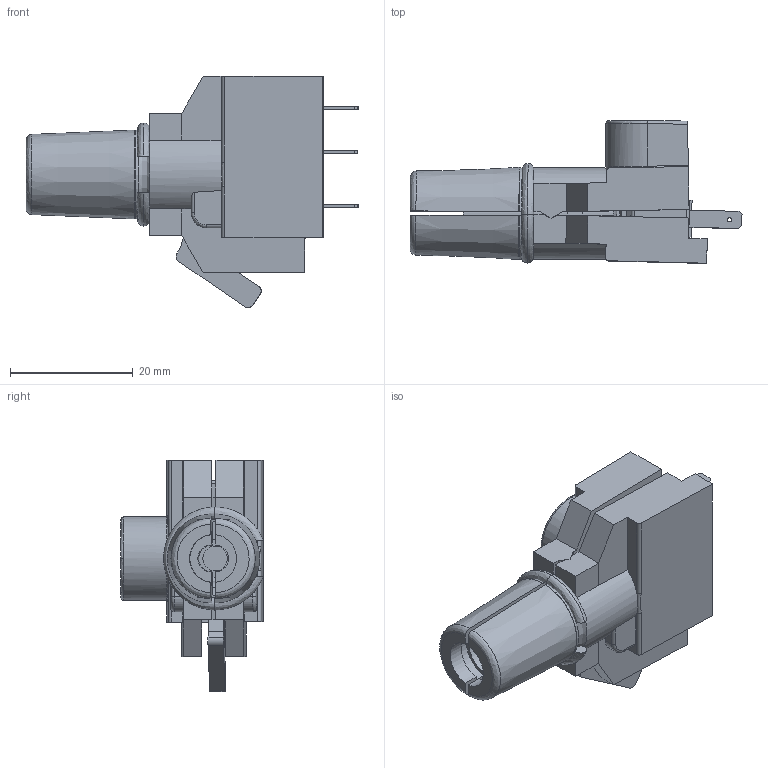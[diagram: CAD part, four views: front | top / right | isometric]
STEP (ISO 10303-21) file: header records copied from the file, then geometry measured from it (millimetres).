
FILE_DESCRIPTION (( 'STEP AP214' ), '1' );
FILE_NAME ('VL41F.STEP', '2017-03-21T13:34:11', ( '' ), ( '' ), 'SwSTEP 2.0', 'SolidWorks 2011', '' );
FILE_SCHEMA (( 'AUTOMOTIVE_DESIGN' ));
Length unit declared in the file: millimetre
Products named in the file (1): VL41F
Bounding box: 54.15 x 23.3 x 37.7 mm (x, y, z)
Volume: 12158.9 mm3; surface area: 9293.9 mm2
Topology: 8 solids, 8 shells, 346 faces, 890 edges, 580 vertices
Faces by surface type: plane 213, cylinder 74, bspline 57, cone 2
Entity records: 19884 total; most frequent: CARTESIAN_POINT 7890, ORIENTED_EDGE 1780, DIRECTION 1500, EDGE_CURVE 890, VECTOR 580, VERTEX_POINT 580, LINE 580, AXIS2_PLACEMENT_3D 460
